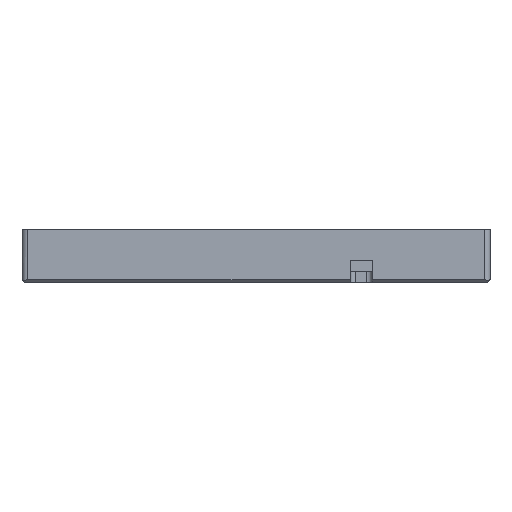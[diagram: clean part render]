
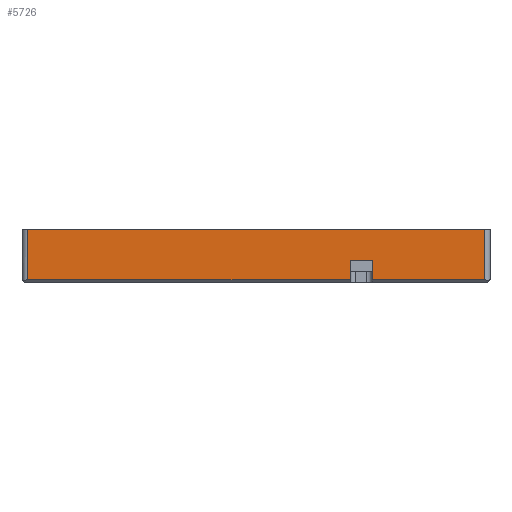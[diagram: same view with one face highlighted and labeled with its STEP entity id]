
A CAD part, front view. The second image highlights one B-rep face of the part: STEP entity #5726.
In plain terms, the highlighted planar face has unit normal (0, -1, 0).
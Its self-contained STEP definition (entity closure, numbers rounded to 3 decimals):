
#11=DIRECTION('',(1.0,0.0,0.0));
#12=DIRECTION('',(0.0,0.0,1.0));
#21=DIRECTION('',(-1.0,0.0,0.0));
#62=(GEOMETRIC_REPRESENTATION_CONTEXT(2)PARAMETRIC_REPRESENTATION_CONTEXT()REPRESENTATION_CONTEXT('2D SPACE',''));
#65=CARTESIAN_POINT('',(109.897,-109.897,19.2));
#66=DIRECTION('',(0.0,1.0,0.0));
#67=DIRECTION('',(0.0,-0.0,1.0));
#68=AXIS2_PLACEMENT_3D('',#65,#67,#66);
#69=PLANE('',#68);
#92=DIRECTION('',(0.0,-1.0,0.0));
#801=DIRECTION('',(-1.,0.0,0.0));
#1562=DIRECTION('',(0.0,0.0,-1.0));
#1901=VECTOR('',#12,8.0);
#1971=CARTESIAN_POINT('',(42.25,-30.5,2.0));
#1972=AXIS2_PLACEMENT_3D('',#1971,#21,#92);
#1973=PLANE('',#1972);
#2155=CARTESIAN_POINT('',(34.25,-50.5,2.0));
#2156=AXIS2_PLACEMENT_3D('',#2155,#11,#66);
#2157=PLANE('',#2156);
#2238=CARTESIAN_POINT('',(-170.0,-52.7,0.0));
#2239=DIRECTION('',(0.0,-0.707,-0.707));
#2240=AXIS2_PLACEMENT_3D('',#2238,#2239,#11);
#2241=PLANE('',#2240);
#4843=CARTESIAN_POINT('',(51.747,-55.597,8.0));
#4844=AXIS2_PLACEMENT_3D('',#4843,#1562,#21);
#4845=PLANE('',#4844);
#4866=CARTESIAN_POINT('',(42.25,-53.7,8.0));
#4867=VERTEX_POINT('',#4866);
#4874=CARTESIAN_POINT('',(23.2,6.0));
#4882=CARTESIAN_POINT('',(34.25,-53.7,8.0));
#4883=VERTEX_POINT('',#4882);
#4884=CARTESIAN_POINT('',(51.747,-53.7,8.0));
#4885=VECTOR('',#801,26.995);
#4886=LINE('',#4884,#4885);
#4887=CARTESIAN_POINT('',(9.497,1.897));
#4888=CARTESIAN_POINT('',(17.497,1.897));
#4889=B_SPLINE_CURVE_WITH_KNOTS('',1,(#4887,#4888),.UNSPECIFIED.,.U.,.U.,(2,2),(0.352,0.648),.UNSPECIFIED.);
#4890=DEFINITIONAL_REPRESENTATION('',(#4889),#62);
#4891=PCURVE('',#4845,#4890);
#4892=CARTESIAN_POINT('',(-85.0,-53.7,0.0));
#4893=AXIS2_PLACEMENT_3D('',#4892,#92,#11);
#4894=PLANE('',#4893);
#4895=CARTESIAN_POINT('',(127.25,8.0));
#4896=CARTESIAN_POINT('',(119.25,8.0));
#4897=B_SPLINE_CURVE_WITH_KNOTS('',1,(#4895,#4896),.UNSPECIFIED.,.U.,.U.,(2,2),(0.352,0.648),.UNSPECIFIED.);
#4898=DEFINITIONAL_REPRESENTATION('',(#4897),#62);
#4899=PCURVE('',#4894,#4898);
#4900=SURFACE_CURVE('',#4886,(#4891,#4899),.CURVE_3D.);
#4901=EDGE_CURVE('',#4867,#4883,#4900,.T.);
#4947=CARTESIAN_POINT('',(34.25,-53.7,1.));
#4948=VERTEX_POINT('',#4947);
#4949=CARTESIAN_POINT('',(34.25,-53.7,8.0));
#4950=VECTOR('',#1562,8.);
#4951=LINE('',#4949,#4950);
#4952=CARTESIAN_POINT('',(-3.2,6.0));
#4953=CARTESIAN_POINT('',(-3.2,-1.0));
#4954=B_SPLINE_CURVE_WITH_KNOTS('',1,(#4952,#4953),.UNSPECIFIED.,.U.,.U.,(2,2),(0.0,0.875),.UNSPECIFIED.);
#4955=DEFINITIONAL_REPRESENTATION('',(#4954),#62);
#4956=PCURVE('',#2157,#4955);
#4957=CARTESIAN_POINT('',(119.25,1.0));
#4958=B_SPLINE_CURVE_WITH_KNOTS('',1,(#4896,#4957),.UNSPECIFIED.,.U.,.U.,(2,2),(0.0,0.875),.UNSPECIFIED.);
#4959=DEFINITIONAL_REPRESENTATION('',(#4958),#62);
#4960=PCURVE('',#4894,#4959);
#4961=SURFACE_CURVE('',#4951,(#4956,#4960),.CURVE_3D.);
#4962=EDGE_CURVE('',#4883,#4948,#4961,.T.);
#5145=VECTOR('',#12,36.4);
#5147=CARTESIAN_POINT('',(168.0,1.0));
#5148=CARTESIAN_POINT('',(168.0,19.2));
#5149=B_SPLINE_CURVE_WITH_KNOTS('',1,(#5147,#5148),.UNSPECIFIED.,.U.,.U.,(2,2),(0.25,0.75),.UNSPECIFIED.);
#5150=DEFINITIONAL_REPRESENTATION('',(#5149),#62);
#5160=CARTESIAN_POINT('',(2.0,19.2));
#5161=B_SPLINE_CURVE_WITH_KNOTS('',1,(#5160,#5148),.UNSPECIFIED.,.U.,.U.,(2,2),(0.012,0.988),.UNSPECIFIED.);
#5162=DEFINITIONAL_REPRESENTATION('',(#5161),#62);
#5176=CARTESIAN_POINT('',(2.0,1.0));
#5177=B_SPLINE_CURVE_WITH_KNOTS('',1,(#5176,#5160),.UNSPECIFIED.,.U.,.U.,(2,2),(0.25,0.75),.UNSPECIFIED.);
#5178=DEFINITIONAL_REPRESENTATION('',(#5177),#62);
#5614=CARTESIAN_POINT('',(-83.0,-53.7,1.0));
#5615=VERTEX_POINT('',#5614);
#5616=CARTESIAN_POINT('',(-83.0,-53.7,19.2));
#5617=VERTEX_POINT('',#5616);
#5618=CARTESIAN_POINT('',(-83.0,-53.7,-8.1));
#5619=LINE('',#5618,#5145);
#5620=PCURVE('',#4894,#5178);
#5621=SURFACE_CURVE('',#5619,(#5620),.CURVE_3D.);
#5622=EDGE_CURVE('',#5615,#5617,#5621,.T.);
#5623=ORIENTED_EDGE('',*,*,#5622,.F.);
#5624=CARTESIAN_POINT('',(-82.717,-53.7,1.0));
#5625=CARTESIAN_POINT('',(-82.435,-53.7,1.0));
#5626=CARTESIAN_POINT('',(-82.152,-53.7,1.0));
#5627=CARTESIAN_POINT('',(-81.536,-53.7,1.0));
#5628=CARTESIAN_POINT('',(-80.921,-53.7,1.0));
#5629=CARTESIAN_POINT('',(-80.305,-53.7,1.0));
#5630=CARTESIAN_POINT('',(-79.073,-53.7,1.0));
#5631=CARTESIAN_POINT('',(-77.841,-53.7,1.0));
#5632=CARTESIAN_POINT('',(-76.609,-53.7,1.0));
#5633=CARTESIAN_POINT('',(-74.146,-53.7,1.0));
#5634=CARTESIAN_POINT('',(-71.682,-53.7,1.0));
#5635=CARTESIAN_POINT('',(-69.219,-53.7,1.0));
#5636=CARTESIAN_POINT('',(-64.292,-53.7,1.0));
#5637=CARTESIAN_POINT('',(-59.365,-53.7,1.0));
#5638=CARTESIAN_POINT('',(-54.438,-53.7,1.0));
#5639=CARTESIAN_POINT('',(-44.583,-53.7,1.0));
#5640=CARTESIAN_POINT('',(-34.729,-53.7,1.0));
#5641=CARTESIAN_POINT('',(-24.875,-53.7,1.0));
#5642=CARTESIAN_POINT('',(-5.167,-53.7,1.0));
#5643=CARTESIAN_POINT('',(14.542,-53.7,1.0));
#5644=CARTESIAN_POINT('',(34.25,-53.7,1.0));
#5645=B_SPLINE_CURVE_WITH_KNOTS('',3,(#5614,#5624,#5625,#5626,#5627,#5628,#5629,#5630,#5631,#5632,#5633,#5634,#5635,#5636,#5637,#5638,#5639,#5640,#5641,#5642,#5643,#5644),.UNSPECIFIED.,.U.,.U.,(4,3,3,3,3,3,3,4),(87.0,87.848,89.695,93.391,100.781,115.563,145.125,204.25),.UNSPECIFIED.);
#5646=B_SPLINE_CURVE_WITH_KNOTS('',1,(#5176,#4957),.UNSPECIFIED.,.U.,.U.,(2,2),(87.0,204.25),.UNSPECIFIED.);
#5647=DEFINITIONAL_REPRESENTATION('',(#5646),#62);
#5648=PCURVE('',#4894,#5647);
#5649=CARTESIAN_POINT('',(87.0,1.414));
#5650=CARTESIAN_POINT('',(204.25,1.414));
#5651=B_SPLINE_CURVE_WITH_KNOTS('',1,(#5649,#5650),.UNSPECIFIED.,.U.,.U.,(2,2),(87.0,204.25),.UNSPECIFIED.);
#5652=DEFINITIONAL_REPRESENTATION('',(#5651),#62);
#5653=PCURVE('',#2241,#5652);
#5654=SURFACE_CURVE('',#5645,(#5648,#5653),.CURVE_3D.);
#5655=EDGE_CURVE('',#5615,#4948,#5654,.T.);
#5656=ORIENTED_EDGE('',*,*,#5655,.T.);
#5657=ORIENTED_EDGE('',*,*,#4962,.F.);
#5658=ORIENTED_EDGE('',*,*,#4901,.F.);
#5659=CARTESIAN_POINT('',(42.25,-53.7,1.0));
#5660=VERTEX_POINT('',#5659);
#5661=CARTESIAN_POINT('',(42.25,-53.7,0.0));
#5662=LINE('',#5661,#1901);
#5663=CARTESIAN_POINT('',(127.25,1.0));
#5664=B_SPLINE_CURVE_WITH_KNOTS('',1,(#5663,#4895),.UNSPECIFIED.,.U.,.U.,(2,2),(0.125,1.0),.UNSPECIFIED.);
#5665=DEFINITIONAL_REPRESENTATION('',(#5664),#62);
#5666=PCURVE('',#4894,#5665);
#5667=CARTESIAN_POINT('',(23.2,-1.0));
#5668=B_SPLINE_CURVE_WITH_KNOTS('',1,(#5667,#4874),.UNSPECIFIED.,.U.,.U.,(2,2),(0.125,1.0),.UNSPECIFIED.);
#5669=DEFINITIONAL_REPRESENTATION('',(#5668),#62);
#5670=PCURVE('',#1973,#5669);
#5671=SURFACE_CURVE('',#5662,(#5666,#5670),.CURVE_3D.);
#5672=EDGE_CURVE('',#5660,#4867,#5671,.T.);
#5673=ORIENTED_EDGE('',*,*,#5672,.F.);
#5674=CARTESIAN_POINT('',(83.0,-53.7,1.0));
#5675=VERTEX_POINT('',#5674);
#5676=CARTESIAN_POINT('',(49.208,-53.7,1.0));
#5677=CARTESIAN_POINT('',(56.167,-53.7,1.0));
#5678=CARTESIAN_POINT('',(63.125,-53.7,1.0));
#5679=CARTESIAN_POINT('',(66.604,-53.7,1.0));
#5680=CARTESIAN_POINT('',(70.083,-53.7,1.0));
#5681=CARTESIAN_POINT('',(73.563,-53.7,1.0));
#5682=CARTESIAN_POINT('',(75.302,-53.7,1.0));
#5683=CARTESIAN_POINT('',(77.042,-53.7,1.0));
#5684=CARTESIAN_POINT('',(78.781,-53.7,1.0));
#5685=CARTESIAN_POINT('',(79.651,-53.7,1.0));
#5686=CARTESIAN_POINT('',(80.521,-53.7,1.0));
#5687=CARTESIAN_POINT('',(81.391,-53.7,1.0));
#5688=CARTESIAN_POINT('',(81.927,-53.7,1.0));
#5689=CARTESIAN_POINT('',(82.464,-53.7,1.0));
#5690=CARTESIAN_POINT('',(83.,-53.7,1.0));
#5691=B_SPLINE_CURVE_WITH_KNOTS('',3,(#5659,#5676,#5677,#5678,#5679,#5680,#5681,#5682,#5683,#5684,#5685,#5686,#5687,#5688,#5689,#5690),.UNSPECIFIED.,.U.,.U.,(4,3,3,3,3,4),(212.25,233.125,243.563,248.781,251.391,253.),.UNSPECIFIED.);
#5692=CARTESIAN_POINT('',(168.,1.0));
#5693=B_SPLINE_CURVE_WITH_KNOTS('',1,(#5663,#5692),.UNSPECIFIED.,.U.,.U.,(2,2),(212.25,253.),.UNSPECIFIED.);
#5694=DEFINITIONAL_REPRESENTATION('',(#5693),#62);
#5695=PCURVE('',#4894,#5694);
#5696=CARTESIAN_POINT('',(212.25,1.414));
#5697=CARTESIAN_POINT('',(253.,1.414));
#5698=B_SPLINE_CURVE_WITH_KNOTS('',1,(#5696,#5697),.UNSPECIFIED.,.U.,.U.,(2,2),(212.25,253.),.UNSPECIFIED.);
#5699=DEFINITIONAL_REPRESENTATION('',(#5698),#62);
#5700=PCURVE('',#2241,#5699);
#5701=SURFACE_CURVE('',#5691,(#5695,#5700),.CURVE_3D.);
#5702=EDGE_CURVE('',#5660,#5675,#5701,.T.);
#5703=ORIENTED_EDGE('',*,*,#5702,.T.);
#5704=CARTESIAN_POINT('',(83.0,-53.7,19.2));
#5705=VERTEX_POINT('',#5704);
#5706=CARTESIAN_POINT('',(83.0,-53.7,-8.1));
#5707=LINE('',#5706,#5145);
#5708=PCURVE('',#4894,#5150);
#5709=SURFACE_CURVE('',#5707,(#5708),.CURVE_3D.);
#5710=EDGE_CURVE('',#5675,#5705,#5709,.T.);
#5711=ORIENTED_EDGE('',*,*,#5710,.T.);
#5712=CARTESIAN_POINT('',(-85.0,-53.7,19.2));
#5713=VECTOR('',#11,170.0);
#5714=LINE('',#5712,#5713);
#5715=PCURVE('',#4894,#5162);
#5716=CARTESIAN_POINT('',(56.197,192.897));
#5717=CARTESIAN_POINT('',(56.197,26.897));
#5718=B_SPLINE_CURVE_WITH_KNOTS('',1,(#5716,#5717),.UNSPECIFIED.,.U.,.U.,(2,2),(0.012,0.988),.UNSPECIFIED.);
#5719=DEFINITIONAL_REPRESENTATION('',(#5718),#62);
#5720=PCURVE('',#69,#5719);
#5721=SURFACE_CURVE('',#5714,(#5715,#5720),.CURVE_3D.);
#5722=EDGE_CURVE('',#5617,#5705,#5721,.T.);
#5723=ORIENTED_EDGE('',*,*,#5722,.F.);
#5724=EDGE_LOOP('',(#5623,#5656,#5657,#5658,#5673,#5703,#5711,#5723));
#5725=FACE_OUTER_BOUND('',#5724,.T.);
#5726=ADVANCED_FACE('',(#5725),#4894,.T.);
